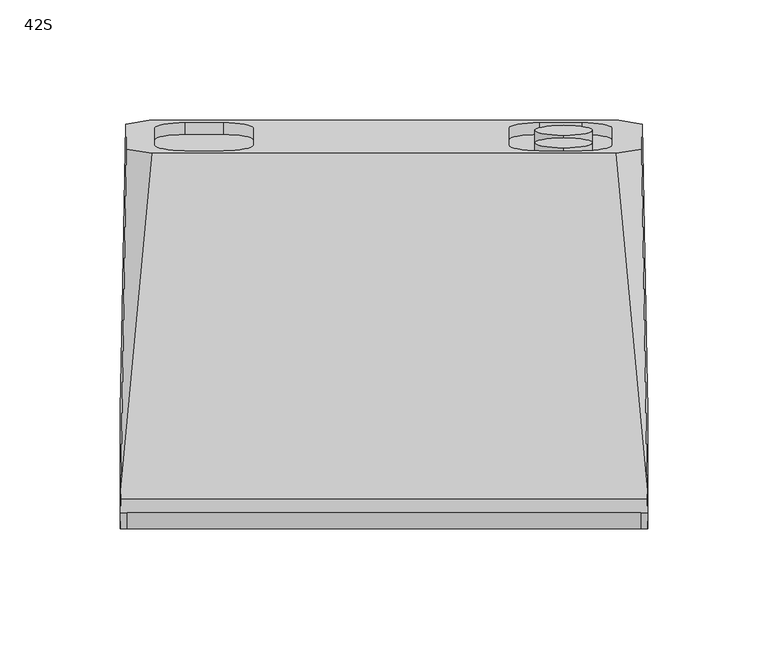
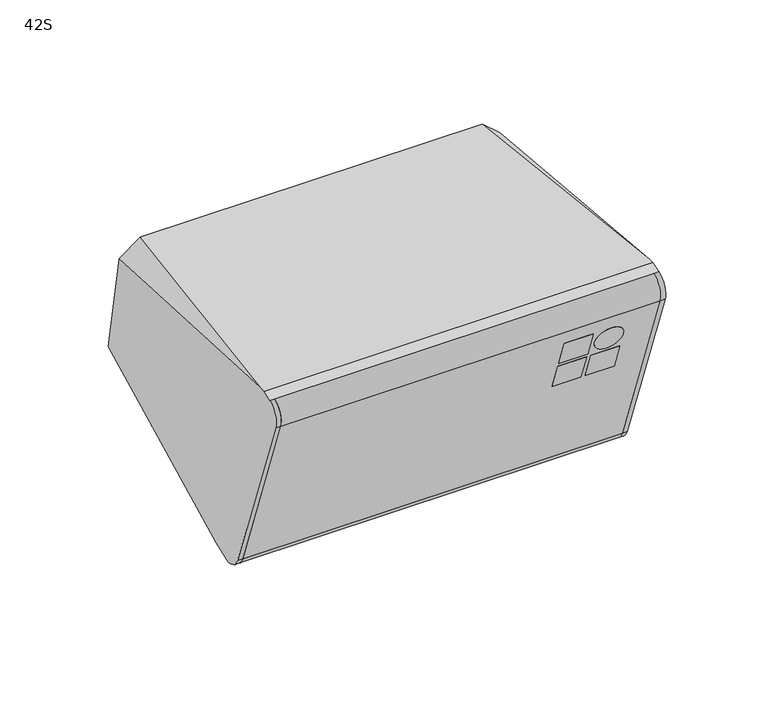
"""IFC4 building model written with IfcOpenShell, lengths in millimetres: proxy geometry, d&b xS-Series 42S Point Source : 42S."""

import ifcopenshell
import ifcopenshell.guid

model = None  # the IFC model being written
_history = None  # IfcOwnerHistory: only IFC2X3 demands one
_inside = {}  # id of a spatial element -> (the spatial element, [elements in it])
_under = {}  # id of a project, library or spatial element -> (it, [spatial elements below it])
_declared = {}  # id of a project -> (the project, [libraries it declares])
_typed = {}  # id of a type object -> (the type object, [elements of that type])
_made_of = {}  # id of a material, layer set ... -> (it, [elements and type objects made of it])


def new_model(schema):
    """Start an empty IFC model of exactly this schema.

    Asked for "IFC4X3", IfcOpenShell would pick the latest addendum, in which some entities
    have other attributes; the version numbers below select the first issue.
    IFC2X3 requires an IfcOwnerHistory on every rooted entity: one is made here for all.
    """
    global model, _history
    if schema == "IFC4X3":
        model = ifcopenshell.file(schema_version=(4, 3, 0, 0))
    else:
        model = ifcopenshell.file(schema=schema)
    _inside.clear()
    _under.clear()
    _declared.clear()
    _typed.clear()
    _made_of.clear()
    _history = None
    if model.schema == "IFC2X3":
        org = make("IfcOrganization", Name="unknown")
        user = make(
            "IfcPersonAndOrganization",
            ThePerson=make("IfcPerson", FamilyName="unknown"),
            TheOrganization=org,
        )
        app = make(
            "IfcApplication",
            ApplicationDeveloper=org,
            Version="unknown",
            ApplicationFullName="unknown",
            ApplicationIdentifier="unknown",
        )
        _history = make(
            "IfcOwnerHistory",
            OwningUser=user,
            OwningApplication=app,
            ChangeAction="ADDED",
            CreationDate=0,
        )
    return model


def make(cls, **values):
    """One entity of the class cls with the attributes given. An attribute that is None is left unset."""
    return model.create_entity(
        cls, **{name: value for name, value in values.items() if value is not None}
    )


def rooted(cls, **values):
    """An entity with a GlobalId (a new one), such as an element, a storey or a relation."""
    return make(cls, GlobalId=ifcopenshell.guid.new(), OwnerHistory=_history, **values)


def si_unit(unit_type, name, prefix=None):
    """IfcSIUnit, for example si_unit("LENGTHUNIT", "METRE", prefix="MILLI")."""
    return make("IfcSIUnit", UnitType=unit_type, Prefix=prefix, Name=name)


def assignment(units):
    """IfcUnitAssignment: the units of a project."""
    return None if units is None else make("IfcUnitAssignment", Units=units)


def point(xyz):
    """IfcCartesianPoint."""
    return None if xyz is None else make("IfcCartesianPoint", Coordinates=xyz)


def direction(xyz):
    """IfcDirection."""
    return None if xyz is None else make("IfcDirection", DirectionRatios=xyz)


def frame(location, z_axis=None, x_axis=None):
    """IfcAxis2Placement3D, a coordinate frame: its origin and axes. An axis left out is left unset."""
    return make(
        "IfcAxis2Placement3D",
        Location=point(location),
        Axis=direction(z_axis),
        RefDirection=direction(x_axis),
    )


def frame_2d(location, x_axis=None):
    """IfcAxis2Placement2D, a coordinate frame in the plane: its origin and x axis."""
    return make(
        "IfcAxis2Placement2D", Location=point(location), RefDirection=direction(x_axis)
    )


def origin():
    """The frame at (0, 0, 0) with its axes left unset."""
    return frame((0.0, 0.0, 0.0))


def place(relative_to, where):
    """IfcLocalPlacement: puts the frame where relative to a parent placement (None: the world)."""
    return make(
        "IfcLocalPlacement", PlacementRelTo=relative_to, RelativePlacement=where
    )


def context(
    kind, dimensions, precision=None, world=None, true_north=None, identifier=None
):
    """IfcGeometricRepresentationContext, for example the 3D "Model" context."""
    return make(
        "IfcGeometricRepresentationContext",
        ContextIdentifier=identifier,
        ContextType=kind,
        CoordinateSpaceDimension=dimensions,
        Precision=precision,
        WorldCoordinateSystem=world,
        TrueNorth=true_north,
    )


def project(units=None, contexts=None):
    """IfcProject with its units and contexts."""
    return rooted(
        "IfcProject",
        Name="project",
        RepresentationContexts=contexts,
        UnitsInContext=assignment(units),
    )


def spatial(cls, under=None, at=None, **own):
    """A site, building, storey or space (cls), placed at a placement, below another one or the project."""
    s = rooted(cls, ObjectPlacement=at, **own)
    if under is not None:
        _under.setdefault(under.id(), (under, []))[1].append(s)
    return s


def polyline(points):
    """IfcPolyline through the points."""
    return make("IfcPolyline", Points=[point(p) for p in points])


def circle_curve(where, radius):
    """IfcCircle in the frame where."""
    return make("IfcCircle", Position=where, Radius=radius)


def ellipse_curve(where, semi_axis1, semi_axis2):
    """IfcEllipse in the frame where."""
    return make(
        "IfcEllipse", Position=where, SemiAxis1=semi_axis1, SemiAxis2=semi_axis2
    )


def trimmed(basis, trim1, trim2, sense, master):
    """IfcTrimmedCurve: the piece of a basis curve between two trims."""
    return make(
        "IfcTrimmedCurve",
        BasisCurve=basis,
        Trim1=trim1,
        Trim2=trim2,
        SenseAgreement=sense,
        MasterRepresentation=master,
    )


def segment(curve, same_sense, transition):
    """IfcCompositeCurveSegment."""
    return make(
        "IfcCompositeCurveSegment",
        Transition=transition,
        SameSense=same_sense,
        ParentCurve=curve,
    )


def composite_curve(segments, self_intersect=None):
    """IfcCompositeCurve: segments joined end to end."""
    return make("IfcCompositeCurve", Segments=segments, SelfIntersect=self_intersect)


def outline(outer, holes=None, kind="AREA"):
    """IfcArbitraryClosedProfileDef: a profile drawn as a closed curve; with holes, ...WithVoids."""
    if holes is None:
        return make("IfcArbitraryClosedProfileDef", ProfileType=kind, OuterCurve=outer)
    return make(
        "IfcArbitraryProfileDefWithVoids",
        ProfileType=kind,
        OuterCurve=outer,
        InnerCurves=holes,
    )


def extrude(swept, where, along, depth):
    """IfcExtrudedAreaSolid: the profile swept, set in the frame where, extruded along a direction by depth."""
    return make(
        "IfcExtrudedAreaSolid",
        SweptArea=swept,
        Position=where,
        ExtrudedDirection=direction(along),
        Depth=depth,
    )


def shape(context_of_items, identifier, shape_type, items):
    """IfcShapeRepresentation: the items that make up one representation, for example the "Body"."""
    return make(
        "IfcShapeRepresentation",
        ContextOfItems=context_of_items,
        RepresentationIdentifier=identifier,
        RepresentationType=shape_type,
        Items=items,
    )


def source(mapping_origin, context_of_items, identifier, shape_type, items):
    """IfcRepresentationMap: a shape defined once, which mapped items show again and again."""
    return make(
        "IfcRepresentationMap",
        MappingOrigin=mapping_origin,
        MappedRepresentation=shape(context_of_items, identifier, shape_type, items),
    )


def transform(
    local_origin,
    x_axis=None,
    y_axis=None,
    z_axis=None,
    scale=None,
    scale2=None,
    scale3=None,
    uniform=True,
):
    """IfcCartesianTransformationOperator3D, or its non-uniform kind. x_axis, y_axis, z_axis: its Axis1, 2, 3."""
    if uniform:
        return make(
            "IfcCartesianTransformationOperator3D",
            Axis1=direction(x_axis),
            Axis2=direction(y_axis),
            LocalOrigin=point(local_origin),
            Scale=scale,
            Axis3=direction(z_axis),
        )
    return make(
        "IfcCartesianTransformationOperator3DnonUniform",
        Axis1=direction(x_axis),
        Axis2=direction(y_axis),
        LocalOrigin=point(local_origin),
        Scale=scale,
        Axis3=direction(z_axis),
        Scale2=scale2,
        Scale3=scale3,
    )


def mapped(mapping_source, mapping_target):
    """IfcMappedItem: shows the shape of a source again, moved by a transform."""
    return make(
        "IfcMappedItem", MappingSource=mapping_source, MappingTarget=mapping_target
    )


def made_of(thing, what):
    """Note that an element or type object is made of a material, layer set ...; save() writes the relation."""
    if what is not None:
        _made_of.setdefault(what.id(), (what, []))[1].append(thing)
    return thing


def element(
    cls,
    number,
    at=None,
    inside=None,
    cuts=None,
    type_object=None,
    material=None,
    context=None,
    identifier="Body",
    shape_type=None,
    held_by="IfcProductDefinitionShape",
    body=None,
    shapes=None,
    **own,
):
    """One element of the class cls, such as IfcWall. Its Tag is "e" and its number.

    at: its placement. inside: the storey or other place that contains it. cuts: it is an
    opening in that element (IfcRelVoidsElement). A single representation is given by context,
    identifier, shape_type and body (its items); several are given by shapes. held_by: the class
    of the entity that holds the representations. save() writes the other relations.
    """
    e = rooted(cls, Tag="e%d" % number, ObjectPlacement=at, **own)
    if body is not None:
        shapes = [shape(context, identifier, shape_type, body)]
    if shapes is not None:
        e.Representation = make(held_by, Representations=shapes)
    if inside is not None:
        _inside.setdefault(inside.id(), (inside, []))[1].append(e)
    if cuts is not None:
        rooted(
            "IfcRelVoidsElement", RelatingBuildingElement=cuts, RelatedOpeningElement=e
        )
    if type_object is not None:
        _typed.setdefault(type_object.id(), (type_object, []))[1].append(e)
    return made_of(e, material)


def aggregate(whole, parts):
    """IfcRelAggregates: a whole, such as a stair, and the parts it consists of."""
    return rooted("IfcRelAggregates", RelatingObject=whole, RelatedObjects=parts)


def save(model, path):
    """Write the relations noted so far, then the file.

    IfcRelAggregates (storeys below a building ...), IfcRelContainedInSpatialStructure (elements
    in a storey), IfcRelDefinesByType, IfcRelAssociatesMaterial and IfcRelDeclares: one each for
    every whole, place, type object, material and project.
    """
    for whole, parts in _under.values():
        aggregate(whole, parts)
    for where, things in _inside.values():
        rooted(
            "IfcRelContainedInSpatialStructure",
            RelatedElements=things,
            RelatingStructure=where,
        )
    for kind, things in _typed.values():
        rooted("IfcRelDefinesByType", RelatedObjects=things, RelatingType=kind)
    for what, things in _made_of.values():
        rooted("IfcRelAssociatesMaterial", RelatedObjects=things, RelatingMaterial=what)
    for by, libraries in _declared.values():
        rooted("IfcRelDeclares", RelatingContext=by, RelatedDefinitions=libraries)
    model.write(path)


def plane_surface(at):
    """IfcPlane: the flat surface through the origin of the frame at, square to its z axis."""
    return make("IfcPlane", Position=at)


def cylinder_surface(at, radius):
    """IfcCylindricalSurface: all points at the distance radius from the z axis of the frame at."""
    return make("IfcCylindricalSurface", Position=at, Radius=radius)


def revolved_surface(curve, axis_point, axis_direction):
    """IfcSurfaceOfRevolution: the curve turned about the line through axis_point along axis_direction."""
    return make(
        "IfcSurfaceOfRevolution",
        SweptCurve=make("IfcArbitraryOpenProfileDef", ProfileType="CURVE", Curve=curve),
        AxisPosition=make("IfcAxis1Placement", Location=point(axis_point), Axis=direction(axis_direction)),
    )


def advanced_brep(points, edges, surfaces, faces):
    """IfcAdvancedBrep: a solid bounded by faces that lie on surfaces and meet in shared edges.

    An edge is (start, end): straight between two places in points (the first is 0);
    or (start, end, curve); or (start, end, curve, False) where it runs against its curve.
    A face is (place in surfaces, loops), or (place, loops, False) where it looks against
    its surface's normal. A loop lists edges by number (the first is 1), with a minus sign
    where the edge is run from its end to its start. The first loop is the outer one.
    """
    corners = [point(p) for p in points]
    vertices = [make("IfcVertexPoint", VertexGeometry=c) for c in corners]
    made = []
    for start, end, *more in edges:
        made.append(
            make(
                "IfcEdgeCurve",
                EdgeStart=vertices[start],
                EdgeEnd=vertices[end],
                EdgeGeometry=more[0] if more else make("IfcPolyline", Points=[corners[start], corners[end]]),
                SameSense=more[1] if len(more) > 1 else True,
            )
        )
    hull = []
    for where, loops, *sense in faces:
        bounds = []
        for j, loop in enumerate(loops):
            ring = [make("IfcOrientedEdge", EdgeElement=made[abs(k) - 1], Orientation=k > 0) for k in loop]
            bounds.append(
                make(
                    "IfcFaceOuterBound" if j == 0 else "IfcFaceBound",
                    Bound=make("IfcEdgeLoop", EdgeList=ring),
                    Orientation=True,
                )
            )
        hull.append(make("IfcAdvancedFace", Bounds=bounds, FaceSurface=surfaces[where], SameSense=sense[0] if sense else True))
    return make("IfcAdvancedBrep", Outer=make("IfcClosedShell", CfsFaces=hull))


def proxy_42s_fb7fbbbd(model_context):
    return source(origin(), model_context, "Body", "SolidModel", [
        extrude(outline(polyline([(0.0, -16.3333333), (0.0, 0.0), (5.0, 0.0), (5.0, -16.3333333), (0.0, -16.3333333)])), frame((73.6666667, -74.4948205, -17.5362973), z_axis=(0.0, -0.3420201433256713, 0.9396926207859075), x_axis=(0.0, 0.9396926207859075, 0.3420201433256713)), (0.0, 0.0, 1.0), 16.3333333),
        extrude(outline(polyline([(0.0, -16.3333333), (0.0, 0.0), (5.0, 0.0), (5.0, -16.3333333), (0.0, -16.3333333)])), frame((55.0, -74.4948205, -17.5362973), z_axis=(0.0, -0.3420201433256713, 0.9396926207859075), x_axis=(0.0, 0.9396926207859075, 0.3420201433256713)), (0.0, 0.0, 1.0), 16.3333333),
        extrude(outline(polyline([(0.0, -16.3333333), (0.0, 0.0), (5.0, 0.0), (5.0, -16.3333333), (0.0, -16.3333333)])), frame((55.0, -80.8791965, 0.0046316), z_axis=(0.0, -0.3420201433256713, 0.9396926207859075), x_axis=(0.0, 0.9396926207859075, 0.3420201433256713)), (0.0, 0.0, 1.0), 16.3333333),
        extrude(outline(composite_curve([segment(trimmed(circle_curve(frame_2d((-17.5, -26.8333333)), 8.1666667), [point((-25.6666666, -26.8333333))], [point((-9.3333333, -26.8333333))], False, "CARTESIAN"), True, "CONTINUOUS"), segment(trimmed(circle_curve(frame_2d((-17.5, -26.8333333)), 8.1666667), [point((-9.3333333, -26.8333333))], [point((-25.6666666, -26.8333333))], False, "CARTESIAN"), True, "CONTINUOUS")], self_intersect=False)), frame((99.3333333, -74.4948205, -17.5362973), z_axis=(0.0, 0.9396926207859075, 0.3420201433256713), x_axis=(1.0, 0.0, 0.0)), (0.0, 0.0, 1.0), 5.0),
        extrude(outline(composite_curve([segment(polyline([(-87.9735419, 25.4458491), (-51.0085421, -76.1146532)]), True, "CONTINUOUS"), segment(trimmed(circle_curve(frame_2d((-43.5238009, -73.3904302)), 7.9650952), [point((-51.0085421, -76.1146532))], [point((-40.7995779, -80.8751713))], True, "CARTESIAN"), True, "CONTINUOUS"), segment(polyline([(-40.7995779, -80.8751713), (-40.1304238, -82.7136572)]), True, "CONTINUOUS"), segment(trimmed(circle_curve(frame_2d((-43.5506252, -73.316731)), 10.0), [point((-40.1304238, -82.7136572))], [point((-52.9475514, -76.7369324))], False, "CARTESIAN"), True, "CONTINUOUS"), segment(polyline([(-52.9475514, -76.7369324), (-89.8857269, 24.7498706)]), True, "CONTINUOUS"), segment(trimmed(circle_curve(frame_2d((-80.4560009, 28.1820102)), 10.0349048), [point((-89.8857269, 24.7498706))], [point((-83.8881405, 37.6117362))], False, "CARTESIAN"), True, "CONTINUOUS"), segment(polyline([(-83.8881405, 37.6117362), (-83.1921621, 35.6995512)]), True, "CONTINUOUS"), segment(trimmed(circle_curve(frame_2d((-80.4560009, 28.1820102)), 8.0), [point((-83.1921621, 35.6995512))], [point((-87.9735419, 25.4458491))], True, "CARTESIAN"), True, "CONTINUOUS")], self_intersect=False)), frame((-107.0, 0.0, 0.0), z_axis=(1.0, 0.0, 0.0), x_axis=(0.0, 1.0, 0.0)), (0.0, 0.0, 1.0), 214.0),
        advanced_brep(
        [(-107.0, -40.1304238, -82.7136572), (107.0, -40.1304238, -82.7136572), (107.0, -40.7995779, -80.8751713), (-107.0, -40.7995779, -80.8751713), (107.0, -51.0085421, -76.1146532), (-107.0, -51.0085421, -76.1146532), (107.0, -87.9735419, 25.4458491), (-107.0, -87.9735419, 25.4458491), (107.0, -83.1921621, 35.6995512), (-107.0, -83.1921621, 35.6995512), (107.0, -83.8762023, 37.5789364), (-107.0, -83.8762023, 37.5789364), (109.8273531, -83.8762023, 37.5789364), (109.7253263, -78.3036462, 39.607181), (-109.7253263, -78.3036462, 39.607181), (-109.8273531, -83.8762023, 37.5789364), (-109.8279536, -40.1304238, -82.7136572), (-109.6679034, -31.3887128, -79.5319346), (-97.8946622, 79.7990071, -39.0629141), (97.8946622, 79.7990071, -39.0629141), (109.6679034, -31.3887128, -79.5319346), (109.8279536, -40.1304238, -82.7136572), (96.5142171, 65.9252495, 39.6190753), (-96.5142171, 65.9252495, 39.6190753), (-109.6679034, -74.7519113, 39.6074739), (109.6679034, -74.7519113, 39.6074739), (-107.602215, 78.0567362, -29.1820046), (107.602215, 78.0567362, -29.1820046), (107.4240938, 67.7036493, 29.5332686), (-107.4240938, 67.7036493, 29.5332686), (-109.9986507, -52.8470279, -76.7838073), (-109.9993995, -89.8529271, 24.7618088), (109.9993995, -89.8529271, 24.7618088), (109.9993995, -52.8879273, -76.7986935), (-107.0, -89.8529271, 24.7618088), (-107.0, -52.8879273, -76.7986935), (-95.447753, 76.4794532, -20.2367887), (-82.947753, 78.6500555, -32.5468856), (-67.052247, 78.6500555, -32.5468856), (-54.552247, 76.4794532, -20.2367887), (-54.552247, 69.2582078, 20.7169296), (-67.052247, 67.0876055, 33.0270265), (-82.947753, 67.0876055, 33.0270265), (-95.447753, 69.2582078, 20.7169296), (52.1, 76.4794532, -20.2367887), (64.6, 78.6500555, -32.5468856), (82.4, 78.6500555, -32.5468856), (94.9, 76.4794532, -20.2367887), (94.9, 69.2582078, 20.7169296), (82.4, 67.0876055, 33.0270265), (64.6, 67.0876055, 33.0270265), (52.1, 69.2582078, 20.7169296), (-95.447753, 71.5554145, -21.1050296), (-95.447753, 64.334169, 19.8486887), (-82.947753, 62.1635668, 32.1587856), (-67.052247, 62.1635668, 32.1587856), (-54.552247, 64.334169, 19.8486887), (-54.552247, 71.5554145, -21.1050296), (-67.052247, 73.7260167, -33.4151265), (-82.947753, 73.7260167, -33.4151265), (52.1, 71.5554145, -21.1050296), (52.1, 64.334169, 19.8486887), (64.6, 62.1635668, 32.1587856), (82.4, 62.1635668, 32.1587856), (94.9, 64.334169, 19.8486887), (94.9, 71.5554145, -21.1050296), (82.4, 73.7260167, -33.4151265), (64.6, 73.7260167, -33.4151265), (107.0, -52.8470279, -76.7838073), (107.0, -89.8529271, 24.7618088)],
        [
            (0, 1),
            (1, 2),
            (2, 3),
            (3, 0),
            (2, 4, circle_curve(frame((107.0, -43.5238009, -73.3904302), z_axis=(-1.0, 0.0, 0.0), x_axis=(0.0, 0.34202014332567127, -0.9396926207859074)), 7.9650952)),
            (4, 5),
            (5, 3, circle_curve(frame((-107.0, -43.5238009, -73.3904302), z_axis=(1.0, 0.0, 0.0), x_axis=(0.0, 0.34202014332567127, -0.9396926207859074)), 7.9650952)),
            (4, 6),
            (6, 7),
            (7, 5),
            (6, 8, circle_curve(frame((107.0, -80.4560009, 28.1820102), z_axis=(-1.0, 0.0, 0.0), x_axis=(0.0, 0.34202014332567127, -0.9396926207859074)), 8.0)),
            (8, 9),
            (9, 7, circle_curve(frame((-107.0, -80.4560009, 28.1820102), z_axis=(1.0, 0.0, 0.0), x_axis=(0.0, 0.34202014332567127, -0.9396926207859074)), 8.0)),
            (8, 10),
            (10, 11),
            (11, 9),
            (10, 12),
            (12, 13),
            (13, 14),
            (14, 15),
            (15, 11),
            (0, 16),
            (16, 17),
            (17, 18),
            (18, 19),
            (19, 20),
            (20, 21),
            (21, 1),
            (22, 23),
            (23, 24),
            (24, 14),
            (13, 25),
            (25, 22),
            (26, 18),
            (17, 26),
            (19, 27),
            (27, 20),
            (28, 22),
            (25, 28),
            (23, 29),
            (29, 24),
            (29, 26),
            (16, 30, ellipse_curve(frame((-109.8279536, -43.5238009, -73.3904302), z_axis=(-0.999852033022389, 0.016164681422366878, 0.005883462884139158), x_axis=(-0.017202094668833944, -0.9395535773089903, -0.34196953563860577)), 9.9230392, 9.921571)),
            (30, 31),
            (31, 15, ellipse_curve(frame((-109.8273531, -80.4560009, 28.1820102), z_axis=(-0.999852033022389, 0.016164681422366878, 0.005883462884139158), x_axis=(-0.017202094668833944, -0.9395535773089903, -0.34196953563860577)), 10.0014799, 10.0)),
            (12, 32, ellipse_curve(frame((109.8273531, -80.4560009, 28.1820102), z_axis=(0.9998520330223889, 0.016164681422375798, 0.005883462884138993), x_axis=(-0.01720209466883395, 0.9395535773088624, 0.3419695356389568)), 10.0014799, 10.0)),
            (32, 33),
            (33, 21, ellipse_curve(frame((109.8279536, -43.5238009, -73.3904302), z_axis=(0.9998520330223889, 0.016164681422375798, 0.005883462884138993), x_axis=(-0.01720209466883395, 0.9395535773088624, 0.3419695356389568)), 9.9230392, 9.921571)),
            (27, 28),
            (11, 34, circle_curve(frame((-107.0, -80.4560009, 28.1820102), z_axis=(1.0, 0.0, 0.0), x_axis=(0.0, 0.34202014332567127, -0.9396926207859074)), 10.0)),
            (34, 35),
            (35, 0, circle_curve(frame((-107.0, -43.5238009, -73.3904302), z_axis=(1.0, 0.0, 0.0), x_axis=(0.0, 0.34202014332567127, -0.9396926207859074)), 9.921571)),
            (35, 30),
            (34, 31),
            (36, 37, circle_curve(frame((-82.947753, 76.4794532, -20.2367887), z_axis=(0.0, -0.9848077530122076, -0.1736481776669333), x_axis=(0.0, -0.1736481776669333, 0.9848077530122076)), 12.5)),
            (37, 38),
            (38, 39, circle_curve(frame((-67.052247, 76.4794532, -20.2367887), z_axis=(0.0, -0.9848077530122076, -0.1736481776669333), x_axis=(0.0, -0.1736481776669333, 0.9848077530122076)), 12.5)),
            (39, 40),
            (40, 41, circle_curve(frame((-67.052247, 69.2582078, 20.7169296), z_axis=(0.0, -0.9848077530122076, -0.1736481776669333), x_axis=(0.0, -0.1736481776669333, 0.9848077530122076)), 12.5)),
            (41, 42),
            (42, 43, circle_curve(frame((-82.947753, 69.2582078, 20.7169296), z_axis=(0.0, -0.9848077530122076, -0.1736481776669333), x_axis=(0.0, -0.1736481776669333, 0.9848077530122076)), 12.5)),
            (43, 36),
            (44, 45, circle_curve(frame((64.6, 76.4794532, -20.2367887), z_axis=(0.0, -0.9848077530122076, -0.1736481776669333), x_axis=(0.0, -0.1736481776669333, 0.9848077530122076)), 12.5)),
            (45, 46),
            (46, 47, circle_curve(frame((82.4, 76.4794532, -20.2367887), z_axis=(0.0, -0.9848077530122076, -0.1736481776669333), x_axis=(0.0, -0.1736481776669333, 0.9848077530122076)), 12.5)),
            (47, 48),
            (48, 49, circle_curve(frame((82.4, 69.2582078, 20.7169296), z_axis=(0.0, -0.9848077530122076, -0.1736481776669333), x_axis=(0.0, -0.1736481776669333, 0.9848077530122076)), 12.5)),
            (49, 50),
            (50, 51, circle_curve(frame((64.6, 69.2582078, 20.7169296), z_axis=(0.0, -0.9848077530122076, -0.1736481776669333), x_axis=(0.0, -0.1736481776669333, 0.9848077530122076)), 12.5)),
            (51, 44),
            (52, 53),
            (53, 54, circle_curve(frame((-82.947753, 64.334169, 19.8486887), z_axis=(0.0, 0.9848077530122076, 0.1736481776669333), x_axis=(0.0, -0.1736481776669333, 0.9848077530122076)), 12.5)),
            (54, 55),
            (55, 56, circle_curve(frame((-67.052247, 64.334169, 19.8486887), z_axis=(0.0, 0.9848077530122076, 0.1736481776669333), x_axis=(0.0, -0.1736481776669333, 0.9848077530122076)), 12.5)),
            (56, 57),
            (57, 58, circle_curve(frame((-67.052247, 71.5554145, -21.1050296), z_axis=(0.0, 0.9848077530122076, 0.1736481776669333), x_axis=(0.0, -0.1736481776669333, 0.9848077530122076)), 12.5)),
            (58, 59),
            (59, 52, circle_curve(frame((-82.947753, 71.5554145, -21.1050296), z_axis=(0.0, 0.9848077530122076, 0.1736481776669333), x_axis=(0.0, -0.1736481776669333, 0.9848077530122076)), 12.5)),
            (60, 61),
            (61, 62, circle_curve(frame((64.6, 64.334169, 19.8486887), z_axis=(0.0, 0.9848077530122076, 0.1736481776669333), x_axis=(0.0, -0.1736481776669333, 0.9848077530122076)), 12.5)),
            (62, 63),
            (63, 64, circle_curve(frame((82.4, 64.334169, 19.8486887), z_axis=(0.0, 0.9848077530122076, 0.1736481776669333), x_axis=(0.0, -0.1736481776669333, 0.9848077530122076)), 12.5)),
            (64, 65),
            (65, 66, circle_curve(frame((82.4, 71.5554145, -21.1050296), z_axis=(0.0, 0.9848077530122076, 0.1736481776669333), x_axis=(0.0, -0.1736481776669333, 0.9848077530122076)), 12.5)),
            (66, 67),
            (67, 60, circle_curve(frame((64.6, 71.5554145, -21.1050296), z_axis=(0.0, 0.9848077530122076, 0.1736481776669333), x_axis=(0.0, -0.1736481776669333, 0.9848077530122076)), 12.5)),
            (1, 68, circle_curve(frame((107.0, -43.5238009, -73.3904302), z_axis=(-1.0, 0.0, 0.0), x_axis=(0.0, 0.34202014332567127, -0.9396926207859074)), 9.921571)),
            (68, 69),
            (69, 10, circle_curve(frame((107.0, -80.4560009, 28.1820102), z_axis=(-1.0, 0.0, 0.0), x_axis=(0.0, 0.34202014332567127, -0.9396926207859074)), 10.0)),
            (33, 68),
            (32, 69),
            (59, 37),
            (36, 52),
            (58, 38),
            (57, 39),
            (56, 40),
            (55, 41),
            (54, 42),
            (53, 43),
            (67, 45),
            (44, 60),
            (66, 46),
            (65, 47),
            (64, 48),
            (63, 49),
            (62, 50),
            (61, 51),
        ],
        [
            plane_surface(frame((-107.0, -40.1304238, -82.7136572), z_axis=(0.0, -0.9396926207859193, -0.3420201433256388), x_axis=(1.0, 0.0, 0.0))),
            cylinder_surface(frame((107.0, -43.5238009, -73.3904302), z_axis=(-1.0, 0.0, 0.0), x_axis=(0.0, 0.34202014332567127, -0.9396926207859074)), 7.9650952),
            plane_surface(frame((-107.0, -51.0085421, -76.1146532), z_axis=(0.0, -0.9396926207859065, -0.34202014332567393), x_axis=(1.0, 0.0, 0.0))),
            cylinder_surface(frame((107.0, -80.4560009, 28.1820102), z_axis=(-1.0, 0.0, 0.0), x_axis=(0.0, 0.34202014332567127, -0.9396926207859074)), 8.0),
            plane_surface(frame((-107.0, -83.1921621, 35.6995512), z_axis=(0.0, -0.9396926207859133, -0.34202014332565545), x_axis=(1.0, 0.0, 0.0))),
            plane_surface(frame((-107.0, -83.8762023, 37.5789364), z_axis=(0.0, -0.3420201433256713, 0.9396926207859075), x_axis=(1.0, 0.0, 0.0))),
            plane_surface(frame((-107.0, -34.5250679, -80.6734745), z_axis=(0.0, 0.3420201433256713, -0.9396926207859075), x_axis=(1.0, 0.0, 0.0))),
            plane_surface(frame((0.0, 66.4573306, 39.6191191), z_axis=(0.0, -8.246800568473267e-05, 0.9999999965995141), x_axis=(-1.0, 0.0, 0.0))),
            plane_surface(frame((-103.232233, 90.9912157, -27.7871762), z_axis=(-0.7053631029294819, 0.3071997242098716, -0.6388201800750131), x_axis=(0.7071067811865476, 0.24184476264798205, -0.6644630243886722))),
            plane_surface(frame((103.232233, 90.9912157, -27.7871762), z_axis=(0.7053631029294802, 0.30719972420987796, -0.638820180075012), x_axis=(0.7071067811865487, -0.2418447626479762, 0.6644630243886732))),
            plane_surface(frame((103.232233, 68.7720433, 33.2594985), z_axis=(0.6719558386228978, 0.06276879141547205, 0.7379264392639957), x_axis=(-0.7071067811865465, -0.24184476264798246, 0.6644630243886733))),
            plane_surface(frame((-103.232233, 68.7720433, 33.2594985), z_axis=(-0.6719558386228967, 0.06276879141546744, 0.737926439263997), x_axis=(-0.7071067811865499, 0.24184476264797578, -0.6644630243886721))),
            plane_surface(frame((-110.3665166, -125.6372625, 60.6895534), z_axis=(-0.999852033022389, 0.016164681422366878, 0.005883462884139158), x_axis=(0.0, 0.3420201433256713, -0.9396926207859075))),
            plane_surface(frame((107.2474477, 44.7217815, 122.6951745), z_axis=(0.9998520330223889, 0.016164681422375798, 0.005883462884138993), x_axis=(0.0, 0.3420201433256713, -0.9396926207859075))),
            plane_surface(frame((-107.0, -40.1304238, -82.7136572), z_axis=(1.0000000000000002, 0.0, 0.0), x_axis=(0.0, 0.9396926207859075, 0.3420201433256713))),
            cylinder_surface(frame((-107.0, -43.5238009, -73.3904302), z_axis=(-1.0, 0.0, 0.0), x_axis=(0.0, 0.34202014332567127, -0.9396926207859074)), 9.921571),
            plane_surface(frame((-112.6426388, -52.8879273, -76.7986935), z_axis=(0.0, -0.9396926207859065, -0.34202014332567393), x_axis=(1.0, 0.0, 0.0))),
            cylinder_surface(frame((-107.0, -80.4560009, 28.1820102), z_axis=(-1.0, 0.0, 0.0), x_axis=(0.0, 0.34202014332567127, -0.9396926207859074)), 10.0),
            plane_surface(frame((-250.0, 82.8421534, -56.3214544), z_axis=(0.0, 0.9848077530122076, 0.17364817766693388), x_axis=(1.0, 0.0, 0.0))),
            plane_surface(frame((-82.947753, 69.3848123, -8.7949326), z_axis=(0.0, 0.9848077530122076, 0.1736481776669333), x_axis=(-1.0, 0.0, 0.0))),
            plane_surface(frame((107.0, -40.1304238, -82.7136572), z_axis=(-1.0000000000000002, 0.0, 0.0), x_axis=(0.0, -0.9396926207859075, -0.3420201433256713))),
            cylinder_surface(frame((113.0, -43.5238009, -73.3904302), z_axis=(-1.0, 0.0, 0.0), x_axis=(0.0, 0.34202014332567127, -0.9396926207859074)), 9.921571),
            plane_surface(frame((107.0, -52.8879273, -76.7986935), z_axis=(0.0, -0.9396926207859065, -0.34202014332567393), x_axis=(1.0, 0.0, 0.0))),
            cylinder_surface(frame((113.0, -80.4560009, 28.1820102), z_axis=(-1.0, 0.0, 0.0), x_axis=(0.0, 0.34202014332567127, -0.9396926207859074)), 10.0),
            revolved_surface(polyline([(-82.947753, 69.38481225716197, -8.794932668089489), (-82.947753, 74.30885105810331, -7.926691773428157)]), (-82.947753, 76.4794532, -20.2367887), (0.0, -0.9848077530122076, -0.1736481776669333)),
            plane_surface(frame((-82.947753, 73.7260167, -33.4151265), z_axis=(0.0, -0.1736481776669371, 0.9848077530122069), x_axis=(0.0, 0.9848077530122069, 0.1736481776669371))),
            revolved_surface(polyline([(-67.052247, 69.38481225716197, -8.794932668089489), (-67.052247, 74.30885105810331, -7.926691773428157)]), (-67.052247, 76.4794532, -20.2367887), (0.0, -0.9848077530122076, -0.1736481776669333)),
            plane_surface(frame((-54.552247, 71.5554145, -21.1050296), z_axis=(-1.0, 0.0, 0.0), x_axis=(0.0, 0.9848077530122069, 0.1736481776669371))),
            revolved_surface(polyline([(-67.052247, 62.163566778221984, 32.15878561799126), (-67.052247, 67.08760557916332, 33.0270265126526)]), (-67.052247, 69.2582078, 20.7169296), (0.0, -0.9848077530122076, -0.1736481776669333)),
            plane_surface(frame((-67.052247, 62.1635668, 32.1587856), z_axis=(0.0, 0.17364817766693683, -0.984807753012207), x_axis=(0.0, 0.984807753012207, 0.17364817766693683))),
            revolved_surface(polyline([(-82.947753, 62.163566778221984, 32.15878561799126), (-82.947753, 67.08760557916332, 33.0270265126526)]), (-82.947753, 69.2582078, 20.7169296), (0.0, -0.9848077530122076, -0.1736481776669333)),
            plane_surface(frame((-95.447753, 64.334169, 19.8486887), z_axis=(1.0, 0.0, 0.0), x_axis=(0.0, 0.9848077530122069, 0.1736481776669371))),
            revolved_surface(polyline([(64.6, 69.38481225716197, -8.794932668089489), (64.6, 74.30885105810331, -7.926691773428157)]), (64.6, 76.4794532, -20.2367887), (0.0, -0.9848077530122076, -0.1736481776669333)),
            plane_surface(frame((64.6, 73.7260167, -33.4151265), z_axis=(0.0, -0.1736481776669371, 0.9848077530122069), x_axis=(0.0, 0.9848077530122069, 0.1736481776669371))),
            revolved_surface(polyline([(82.4, 69.38481225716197, -8.794932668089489), (82.4, 74.30885105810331, -7.926691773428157)]), (82.4, 76.4794532, -20.2367887), (0.0, -0.9848077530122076, -0.1736481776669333)),
            plane_surface(frame((94.9, 71.5554145, -21.1050296), z_axis=(-1.0, 0.0, 0.0), x_axis=(0.0, 0.9848077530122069, 0.1736481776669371))),
            revolved_surface(polyline([(82.4, 62.163566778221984, 32.15878561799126), (82.4, 67.08760557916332, 33.0270265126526)]), (82.4, 69.2582078, 20.7169296), (0.0, -0.9848077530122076, -0.1736481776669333)),
            plane_surface(frame((82.4, 62.1635668, 32.1587856), z_axis=(0.0, 0.1736481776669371, -0.9848077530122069), x_axis=(0.0, 0.9848077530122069, 0.1736481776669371))),
            revolved_surface(polyline([(64.6, 62.163566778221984, 32.15878561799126), (64.6, 67.08760557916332, 33.0270265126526)]), (64.6, 69.2582078, 20.7169296), (0.0, -0.9848077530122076, -0.1736481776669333)),
            plane_surface(frame((52.1, 64.334169, 19.8486887), z_axis=(1.0, 0.0, 0.0), x_axis=(0.0, 0.9848077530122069, 0.1736481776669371))),
        ],
        [
            (0, [[1, 2, 3, 4]]),
            (1, [[-3, 5, 6, 7]]),
            (2, [[-6, 8, 9, 10]]),
            (3, [[-9, 11, 12, 13]]),
            (4, [[-12, 14, 15, 16]]),
            (5, [[-15, 17, 18, 19, 20, 21]]),
            (6, [[-1, 22, 23, 24, 25, 26, 27, 28]]),
            (7, [[29, 30, 31, -19, 32, 33]]),
            (8, [[34, -24, 35]]),
            (9, [[-26, 36, 37]]),
            (10, [[38, -33, 39]]),
            (11, [[-30, 40, 41]]),
            (12, [[-20, -31, -41, 42, -35, -23, 43, 44, 45]]),
            (13, [[-18, 46, 47, 48, -27, -37, 49, -39, -32]]),
            (14, [[50, 51, 52, -4, -7, -10, -13, -16]]),
            (15, [[-52, 53, -43, -22]]),
            (16, [[-51, 54, -44, -53]]),
            (17, [[-50, -21, -45, -54]]),
            (18, [[-25, -34, -42, -40, -29, -38, -49, -36], [55, 56, 57, 58, 59, 60, 61, 62], [63, 64, 65, 66, 67, 68, 69, 70]]),
            (19, [[71, 72, 73, 74, 75, 76, 77, 78]]),
            (19, [[79, 80, 81, 82, 83, 84, 85, 86]]),
            (20, [[87, 88, 89, -14, -11, -8, -5, -2]]),
            (21, [[-87, -28, -48, 90]]),
            (22, [[-88, -90, -47, 91]]),
            (23, [[-89, -91, -46, -17]]),
            (24, [[-78, 92, -55, 93]]),
            (25, [[-77, 94, -56, -92]]),
            (26, [[-76, 95, -57, -94]]),
            (27, [[-75, 96, -58, -95]]),
            (28, [[-74, 97, -59, -96]]),
            (29, [[-73, 98, -60, -97]]),
            (30, [[-72, 99, -61, -98]]),
            (31, [[-71, -93, -62, -99]]),
            (32, [[-86, 100, -63, 101]]),
            (33, [[-85, 102, -64, -100]]),
            (34, [[-84, 103, -65, -102]]),
            (35, [[-83, 104, -66, -103]]),
            (36, [[-82, 105, -67, -104]]),
            (37, [[-81, 106, -68, -105]]),
            (38, [[-80, 107, -69, -106]]),
            (39, [[-79, -101, -70, -107]]),
        ],
    ),
        extrude(outline(composite_curve([segment(trimmed(circle_curve(frame_2d((0.0, -12.0)), 12.0), [point((0.0, -24.0))], [point((0.0, 0.0))], False, "CARTESIAN"), True, "CONTINUOUS"), segment(trimmed(circle_curve(frame_2d((0.0, -12.0)), 12.0), [point((0.0, 0.0))], [point((0.0, -24.0))], False, "CARTESIAN"), True, "CONTINUOUS")], self_intersect=False)), frame((74.8471384, 72.6261724, -27.1775994), z_axis=(0.0, 0.9848077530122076, 0.17364817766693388), x_axis=(1.0, 0.0, 0.0)), (0.0, 0.0, 1.0), 5.0),
        extrude(outline(composite_curve([segment(trimmed(circle_curve(frame_2d((0.0, -42.0)), 12.0), [point((0.0, -54.0))], [point((0.0, -30.0))], False, "CARTESIAN"), True, "CONTINUOUS"), segment(trimmed(circle_curve(frame_2d((0.0, -42.0)), 12.0), [point((0.0, -30.0))], [point((0.0, -54.0))], False, "CARTESIAN"), True, "CONTINUOUS")], self_intersect=False)), frame((74.8471384, 72.6261724, -27.1775994), z_axis=(0.0, 0.9848077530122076, 0.17364817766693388), x_axis=(1.0, 0.0, 0.0)), (0.0, 0.0, 1.0), 5.0),
    ])


if __name__ == "__main__":
    model = new_model("IFC4")
    model_context = context("Model", 3, world=origin())
    ifc_project = project(units=[si_unit("LENGTHUNIT", "METRE", prefix="MILLI")], contexts=[model_context])
    site = spatial("IfcSite", under=ifc_project)
    building = spatial("IfcBuilding", under=site)
    placement = place(None, origin())
    proxy_42s_shape = proxy_42s_fb7fbbbd(model_context)
    element("IfcBuildingElementProxy", 1, Name="d&b xS-Series 42S Point Source : 42S", ObjectType="d&b xS-Series 42S Point Source : 42S", at=placement, inside=building, context=model_context, shape_type="MappedRepresentation", body=[
        mapped(proxy_42s_shape, transform((0.0, 0.0, 0.0), x_axis=(1.0, 0.0, 0.0), y_axis=(0.0, 1.0, 0.0), z_axis=(0.0, 0.0, 1.0))),
    ])
    save(model, "model.ifc")
